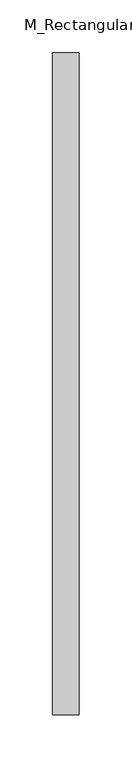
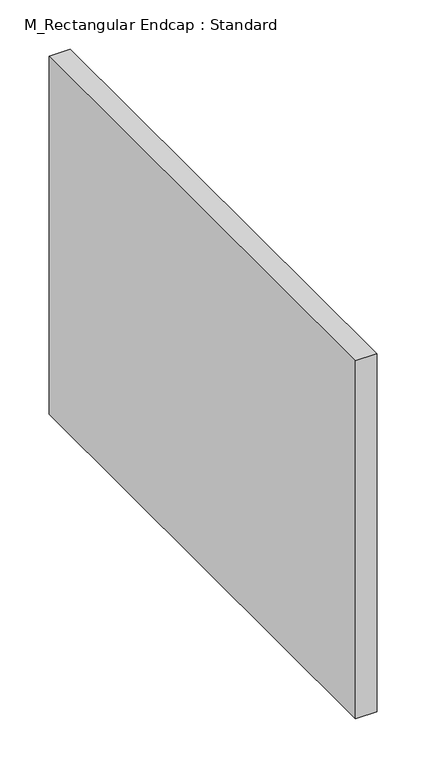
"""IFC4 building model written with IfcOpenShell, lengths in millimetres: duct fitting geometry, M_Rectangular Endcap : Standard."""

import ifcopenshell
import ifcopenshell.guid

model = None  # the IFC model being written
_history = None  # IfcOwnerHistory: only IFC2X3 demands one
_inside = {}  # id of a spatial element -> (the spatial element, [elements in it])
_under = {}  # id of a project, library or spatial element -> (it, [spatial elements below it])
_declared = {}  # id of a project -> (the project, [libraries it declares])
_typed = {}  # id of a type object -> (the type object, [elements of that type])
_made_of = {}  # id of a material, layer set ... -> (it, [elements and type objects made of it])


def new_model(schema):
    """Start an empty IFC model of exactly this schema.

    Asked for "IFC4X3", IfcOpenShell would pick the latest addendum, in which some entities
    have other attributes; the version numbers below select the first issue.
    IFC2X3 requires an IfcOwnerHistory on every rooted entity: one is made here for all.
    """
    global model, _history
    if schema == "IFC4X3":
        model = ifcopenshell.file(schema_version=(4, 3, 0, 0))
    else:
        model = ifcopenshell.file(schema=schema)
    _inside.clear()
    _under.clear()
    _declared.clear()
    _typed.clear()
    _made_of.clear()
    _history = None
    if model.schema == "IFC2X3":
        org = make("IfcOrganization", Name="unknown")
        user = make(
            "IfcPersonAndOrganization",
            ThePerson=make("IfcPerson", FamilyName="unknown"),
            TheOrganization=org,
        )
        app = make(
            "IfcApplication",
            ApplicationDeveloper=org,
            Version="unknown",
            ApplicationFullName="unknown",
            ApplicationIdentifier="unknown",
        )
        _history = make(
            "IfcOwnerHistory",
            OwningUser=user,
            OwningApplication=app,
            ChangeAction="ADDED",
            CreationDate=0,
        )
    return model


def make(cls, **values):
    """One entity of the class cls with the attributes given. An attribute that is None is left unset."""
    return model.create_entity(
        cls, **{name: value for name, value in values.items() if value is not None}
    )


def rooted(cls, **values):
    """An entity with a GlobalId (a new one), such as an element, a storey or a relation."""
    return make(cls, GlobalId=ifcopenshell.guid.new(), OwnerHistory=_history, **values)


def si_unit(unit_type, name, prefix=None):
    """IfcSIUnit, for example si_unit("LENGTHUNIT", "METRE", prefix="MILLI")."""
    return make("IfcSIUnit", UnitType=unit_type, Prefix=prefix, Name=name)


def assignment(units):
    """IfcUnitAssignment: the units of a project."""
    return None if units is None else make("IfcUnitAssignment", Units=units)


def point(xyz):
    """IfcCartesianPoint."""
    return None if xyz is None else make("IfcCartesianPoint", Coordinates=xyz)


def direction(xyz):
    """IfcDirection."""
    return None if xyz is None else make("IfcDirection", DirectionRatios=xyz)


def frame(location, z_axis=None, x_axis=None):
    """IfcAxis2Placement3D, a coordinate frame: its origin and axes. An axis left out is left unset."""
    return make(
        "IfcAxis2Placement3D",
        Location=point(location),
        Axis=direction(z_axis),
        RefDirection=direction(x_axis),
    )


def origin():
    """The frame at (0, 0, 0) with its axes left unset."""
    return frame((0.0, 0.0, 0.0))


def place(relative_to, where):
    """IfcLocalPlacement: puts the frame where relative to a parent placement (None: the world)."""
    return make(
        "IfcLocalPlacement", PlacementRelTo=relative_to, RelativePlacement=where
    )


def context(
    kind, dimensions, precision=None, world=None, true_north=None, identifier=None
):
    """IfcGeometricRepresentationContext, for example the 3D "Model" context."""
    return make(
        "IfcGeometricRepresentationContext",
        ContextIdentifier=identifier,
        ContextType=kind,
        CoordinateSpaceDimension=dimensions,
        Precision=precision,
        WorldCoordinateSystem=world,
        TrueNorth=true_north,
    )


def project(units=None, contexts=None):
    """IfcProject with its units and contexts."""
    return rooted(
        "IfcProject",
        Name="project",
        RepresentationContexts=contexts,
        UnitsInContext=assignment(units),
    )


def spatial(cls, under=None, at=None, **own):
    """A site, building, storey or space (cls), placed at a placement, below another one or the project."""
    s = rooted(cls, ObjectPlacement=at, **own)
    if under is not None:
        _under.setdefault(under.id(), (under, []))[1].append(s)
    return s


def polyline(points):
    """IfcPolyline through the points."""
    return make("IfcPolyline", Points=[point(p) for p in points])


def outline(outer, holes=None, kind="AREA"):
    """IfcArbitraryClosedProfileDef: a profile drawn as a closed curve; with holes, ...WithVoids."""
    if holes is None:
        return make("IfcArbitraryClosedProfileDef", ProfileType=kind, OuterCurve=outer)
    return make(
        "IfcArbitraryProfileDefWithVoids",
        ProfileType=kind,
        OuterCurve=outer,
        InnerCurves=holes,
    )


def extrude(swept, where, along, depth):
    """IfcExtrudedAreaSolid: the profile swept, set in the frame where, extruded along a direction by depth."""
    return make(
        "IfcExtrudedAreaSolid",
        SweptArea=swept,
        Position=where,
        ExtrudedDirection=direction(along),
        Depth=depth,
    )


def shape(context_of_items, identifier, shape_type, items):
    """IfcShapeRepresentation: the items that make up one representation, for example the "Body"."""
    return make(
        "IfcShapeRepresentation",
        ContextOfItems=context_of_items,
        RepresentationIdentifier=identifier,
        RepresentationType=shape_type,
        Items=items,
    )


def source(mapping_origin, context_of_items, identifier, shape_type, items):
    """IfcRepresentationMap: a shape defined once, which mapped items show again and again."""
    return make(
        "IfcRepresentationMap",
        MappingOrigin=mapping_origin,
        MappedRepresentation=shape(context_of_items, identifier, shape_type, items),
    )


def transform(
    local_origin,
    x_axis=None,
    y_axis=None,
    z_axis=None,
    scale=None,
    scale2=None,
    scale3=None,
    uniform=True,
):
    """IfcCartesianTransformationOperator3D, or its non-uniform kind. x_axis, y_axis, z_axis: its Axis1, 2, 3."""
    if uniform:
        return make(
            "IfcCartesianTransformationOperator3D",
            Axis1=direction(x_axis),
            Axis2=direction(y_axis),
            LocalOrigin=point(local_origin),
            Scale=scale,
            Axis3=direction(z_axis),
        )
    return make(
        "IfcCartesianTransformationOperator3DnonUniform",
        Axis1=direction(x_axis),
        Axis2=direction(y_axis),
        LocalOrigin=point(local_origin),
        Scale=scale,
        Axis3=direction(z_axis),
        Scale2=scale2,
        Scale3=scale3,
    )


def mapped(mapping_source, mapping_target):
    """IfcMappedItem: shows the shape of a source again, moved by a transform."""
    return make(
        "IfcMappedItem", MappingSource=mapping_source, MappingTarget=mapping_target
    )


def made_of(thing, what):
    """Note that an element or type object is made of a material, layer set ...; save() writes the relation."""
    if what is not None:
        _made_of.setdefault(what.id(), (what, []))[1].append(thing)
    return thing


def element(
    cls,
    number,
    at=None,
    inside=None,
    cuts=None,
    type_object=None,
    material=None,
    context=None,
    identifier="Body",
    shape_type=None,
    held_by="IfcProductDefinitionShape",
    body=None,
    shapes=None,
    **own,
):
    """One element of the class cls, such as IfcWall. Its Tag is "e" and its number.

    at: its placement. inside: the storey or other place that contains it. cuts: it is an
    opening in that element (IfcRelVoidsElement). A single representation is given by context,
    identifier, shape_type and body (its items); several are given by shapes. held_by: the class
    of the entity that holds the representations. save() writes the other relations.
    """
    e = rooted(cls, Tag="e%d" % number, ObjectPlacement=at, **own)
    if body is not None:
        shapes = [shape(context, identifier, shape_type, body)]
    if shapes is not None:
        e.Representation = make(held_by, Representations=shapes)
    if inside is not None:
        _inside.setdefault(inside.id(), (inside, []))[1].append(e)
    if cuts is not None:
        rooted(
            "IfcRelVoidsElement", RelatingBuildingElement=cuts, RelatedOpeningElement=e
        )
    if type_object is not None:
        _typed.setdefault(type_object.id(), (type_object, []))[1].append(e)
    return made_of(e, material)


def aggregate(whole, parts):
    """IfcRelAggregates: a whole, such as a stair, and the parts it consists of."""
    return rooted("IfcRelAggregates", RelatingObject=whole, RelatedObjects=parts)


def save(model, path):
    """Write the relations noted so far, then the file.

    IfcRelAggregates (storeys below a building ...), IfcRelContainedInSpatialStructure (elements
    in a storey), IfcRelDefinesByType, IfcRelAssociatesMaterial and IfcRelDeclares: one each for
    every whole, place, type object, material and project.
    """
    for whole, parts in _under.values():
        aggregate(whole, parts)
    for where, things in _inside.values():
        rooted(
            "IfcRelContainedInSpatialStructure",
            RelatedElements=things,
            RelatingStructure=where,
        )
    for kind, things in _typed.values():
        rooted("IfcRelDefinesByType", RelatedObjects=things, RelatingType=kind)
    for what, things in _made_of.values():
        rooted("IfcRelAssociatesMaterial", RelatedObjects=things, RelatingMaterial=what)
    for by, libraries in _declared.values():
        rooted("IfcRelDeclares", RelatingContext=by, RelatedDefinitions=libraries)
    model.write(path)


def m_rectangular_endcap_standard_04439c16(model_context):
    return source(origin(), model_context, "Body", "SweptSolid", [
        extrude(outline(polyline([(0.0, -312.5), (0.0, 312.5), (25.0, 312.5), (25.0, -312.5), (0.0, -312.5)])), frame((0.0, 0.0, -222.5), z_axis=(0.0, 0.0, 1.0), x_axis=(1.0, 0.0, 0.0)), (0.0, 0.0, 1.0), 445.0),
    ])


if __name__ == "__main__":
    model = new_model("IFC4")
    model_context = context("Model", 3, world=origin())
    ifc_project = project(units=[si_unit("LENGTHUNIT", "METRE", prefix="MILLI")], contexts=[model_context])
    site = spatial("IfcSite", under=ifc_project)
    building = spatial("IfcBuilding", under=site)
    placement = place(None, origin())
    m_rectangular_endcap_standard_shape = m_rectangular_endcap_standard_04439c16(model_context)
    element("IfcDuctFitting", 1, ObjectType="M_Rectangular Endcap : Standard", at=placement, inside=building, context=model_context, shape_type="MappedRepresentation", body=[
        mapped(m_rectangular_endcap_standard_shape, transform((0.0, 0.0, 0.0), x_axis=(1.0, 0.0, 0.0), y_axis=(0.0, 1.0, 0.0), z_axis=(0.0, 0.0, 1.0))),
    ])
    save(model, "model.ifc")
